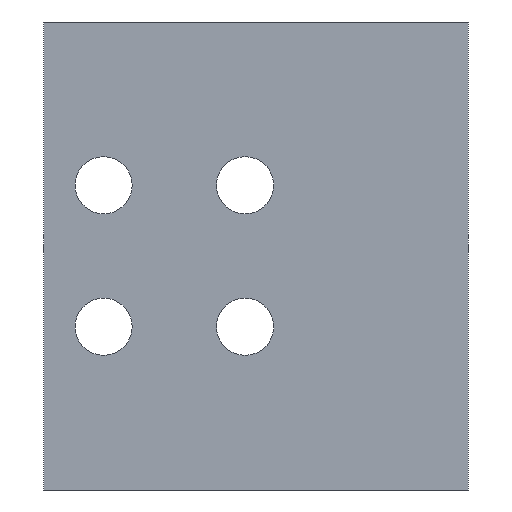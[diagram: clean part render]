
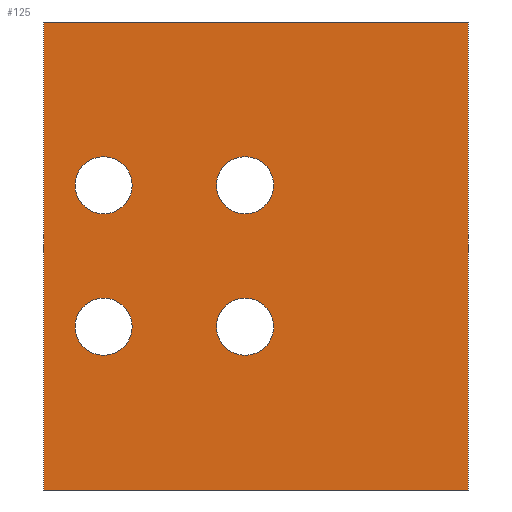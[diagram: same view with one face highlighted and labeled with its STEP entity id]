
A CAD part, front view. The second image highlights one B-rep face of the part: STEP entity #125.
In plain terms, the highlighted planar face has unit normal (0, -1, 0).
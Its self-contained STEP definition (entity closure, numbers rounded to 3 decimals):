
#101 = EDGE_CURVE( '', #165, #113, #267, .T. );
#103 = VERTEX_POINT( '', #269 );
#111 = VERTEX_POINT( '', #277 );
#113 = VERTEX_POINT( '', #279 );
#117 = VERTEX_POINT( '', #284 );
#119 = EDGE_CURVE( '', #143, #103, #286, .T. );
#123 = VERTEX_POINT( '', #291 );
#125 = ADVANCED_FACE( '', ( #293, #294, #295, #296, #297 ), #298, .T. );
#129 = VERTEX_POINT( '', #303 );
#141 = VERTEX_POINT( '', #317 );
#143 = VERTEX_POINT( '', #319 );
#145 = EDGE_CURVE( '', #103, #143, #321, .T. );
#147 = EDGE_CURVE( '', #203, #129, #323, .T. );
#151 = VERTEX_POINT( '', #327 );
#155 = EDGE_CURVE( '', #195, #203, #331, .T. );
#161 = EDGE_CURVE( '', #111, #141, #338, .T. );
#165 = VERTEX_POINT( '', #342 );
#177 = EDGE_CURVE( '', #123, #117, #355, .T. );
#191 = EDGE_CURVE( '', #195, #151, #374, .T. );
#195 = VERTEX_POINT( '', #379 );
#203 = VERTEX_POINT( '', #387 );
#215 = EDGE_CURVE( '', #113, #165, #400, .T. );
#225 = EDGE_CURVE( '', #117, #123, #413, .T. );
#227 = EDGE_CURVE( '', #141, #111, #415, .T. );
#237 = EDGE_CURVE( '', #151, #129, #425, .T. );
#267 = CIRCLE( '', #447, 5.25 );
#269 = CARTESIAN_POINT( '', ( -22.75, 0., 13. ) );
#277 = CARTESIAN_POINT( '', ( -33.25, 0., -13. ) );
#279 = CARTESIAN_POINT( '', ( 3.25, 0., -13. ) );
#284 = CARTESIAN_POINT( '', ( 3.25, 0., 13. ) );
#286 = CIRCLE( '', #466, 5.25 );
#291 = CARTESIAN_POINT( '', ( -7.25, 0., 13. ) );
#293 = FACE_BOUND( '', #473, .T. );
#294 = FACE_BOUND( '', #474, .T. );
#295 = FACE_BOUND( '', #475, .T. );
#296 = FACE_BOUND( '', #476, .T. );
#297 = FACE_OUTER_BOUND( '', #477, .T. );
#298 = PLANE( '', #478 );
#303 = CARTESIAN_POINT( '', ( -39., 0., -43. ) );
#317 = CARTESIAN_POINT( '', ( -22.75, 0., -13. ) );
#319 = CARTESIAN_POINT( '', ( -33.25, 0., 13. ) );
#321 = CIRCLE( '', #506, 5.25 );
#323 = LINE( '', #509, #510 );
#327 = CARTESIAN_POINT( '', ( -39., 0., 43. ) );
#331 = LINE( '', #520, #521 );
#338 = CIRCLE( '', #531, 5.25 );
#342 = CARTESIAN_POINT( '', ( -7.25, 0., -13. ) );
#355 = CIRCLE( '', #557, 5.25 );
#374 = LINE( '', #583, #584 );
#379 = CARTESIAN_POINT( '', ( 39., 0., 43. ) );
#387 = CARTESIAN_POINT( '', ( 39., 0., -43. ) );
#400 = CIRCLE( '', #616, 5.25 );
#413 = CIRCLE( '', #632, 5.25 );
#415 = CIRCLE( '', #635, 5.25 );
#425 = LINE( '', #654, #655 );
#447 = AXIS2_PLACEMENT_3D( '', #673, #674, #675 );
#466 = AXIS2_PLACEMENT_3D( '', #685, #686, #687 );
#473 = EDGE_LOOP( '', ( #697, #698 ) );
#474 = EDGE_LOOP( '', ( #699, #700 ) );
#475 = EDGE_LOOP( '', ( #701, #702 ) );
#476 = EDGE_LOOP( '', ( #703, #704 ) );
#477 = EDGE_LOOP( '', ( #705, #706, #707, #708 ) );
#478 = AXIS2_PLACEMENT_3D( '', #709, #710, #711 );
#506 = AXIS2_PLACEMENT_3D( '', #738, #739, #740 );
#509 = CARTESIAN_POINT( '', ( 39., 0., -43. ) );
#510 = VECTOR( '', #741, 1. );
#520 = CARTESIAN_POINT( '', ( 39., 0., 43. ) );
#521 = VECTOR( '', #745, 1. );
#531 = AXIS2_PLACEMENT_3D( '', #755, #756, #757 );
#557 = AXIS2_PLACEMENT_3D( '', #770, #771, #772 );
#583 = CARTESIAN_POINT( '', ( 39., 0., 43. ) );
#584 = VECTOR( '', #797, 1. );
#616 = AXIS2_PLACEMENT_3D( '', #819, #820, #821 );
#632 = AXIS2_PLACEMENT_3D( '', #847, #848, #849 );
#635 = AXIS2_PLACEMENT_3D( '', #850, #851, #852 );
#654 = CARTESIAN_POINT( '', ( -39., 0., 43. ) );
#655 = VECTOR( '', #857, 1. );
#673 = CARTESIAN_POINT( '', ( -2., 0., -13. ) );
#674 = DIRECTION( '', ( 0., 1., 0. ) );
#675 = DIRECTION( '', ( -1., 0., 0. ) );
#685 = CARTESIAN_POINT( '', ( -28., 0., 13. ) );
#686 = DIRECTION( '', ( 0., 1., 0. ) );
#687 = DIRECTION( '', ( -1., 0., 0. ) );
#697 = ORIENTED_EDGE( '', *, *, #225, .T. );
#698 = ORIENTED_EDGE( '', *, *, #177, .T. );
#699 = ORIENTED_EDGE( '', *, *, #145, .T. );
#700 = ORIENTED_EDGE( '', *, *, #119, .T. );
#701 = ORIENTED_EDGE( '', *, *, #215, .T. );
#702 = ORIENTED_EDGE( '', *, *, #101, .T. );
#703 = ORIENTED_EDGE( '', *, *, #227, .T. );
#704 = ORIENTED_EDGE( '', *, *, #161, .T. );
#705 = ORIENTED_EDGE( '', *, *, #237, .T. );
#706 = ORIENTED_EDGE( '', *, *, #147, .F. );
#707 = ORIENTED_EDGE( '', *, *, #155, .F. );
#708 = ORIENTED_EDGE( '', *, *, #191, .T. );
#709 = CARTESIAN_POINT( '', ( 39., 0., 43. ) );
#710 = DIRECTION( '', ( 0., -1., 0. ) );
#711 = DIRECTION( '', ( 0., 0., 1. ) );
#738 = CARTESIAN_POINT( '', ( -28., 0., 13. ) );
#739 = DIRECTION( '', ( 0., 1., 0. ) );
#740 = DIRECTION( '', ( -1., 0., 0. ) );
#741 = DIRECTION( '', ( -1., 0., 0. ) );
#745 = DIRECTION( '', ( 0., 0., -1. ) );
#755 = CARTESIAN_POINT( '', ( -28., 0., -13. ) );
#756 = DIRECTION( '', ( 0., 1., 0. ) );
#757 = DIRECTION( '', ( -1., 0., 0. ) );
#770 = CARTESIAN_POINT( '', ( -2., 0., 13. ) );
#771 = DIRECTION( '', ( 0., 1., 0. ) );
#772 = DIRECTION( '', ( -1., 0., 0. ) );
#797 = DIRECTION( '', ( -1., 0., 0. ) );
#819 = CARTESIAN_POINT( '', ( -2., 0., -13. ) );
#820 = DIRECTION( '', ( 0., 1., 0. ) );
#821 = DIRECTION( '', ( -1., 0., 0. ) );
#847 = CARTESIAN_POINT( '', ( -2., 0., 13. ) );
#848 = DIRECTION( '', ( 0., 1., 0. ) );
#849 = DIRECTION( '', ( -1., 0., 0. ) );
#850 = CARTESIAN_POINT( '', ( -28., 0., -13. ) );
#851 = DIRECTION( '', ( 0., 1., 0. ) );
#852 = DIRECTION( '', ( -1., 0., 0. ) );
#857 = DIRECTION( '', ( 0., 0., -1. ) );
